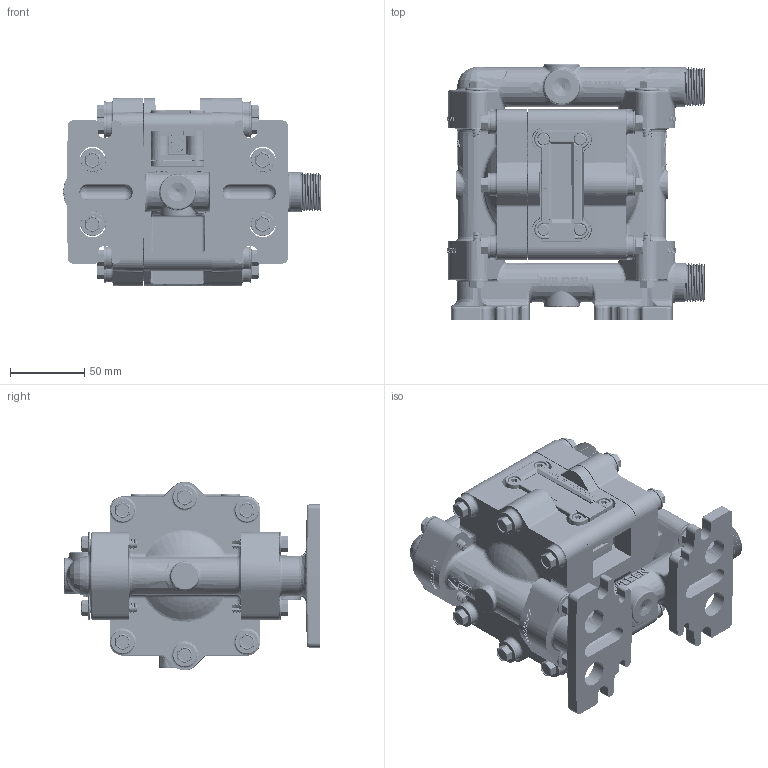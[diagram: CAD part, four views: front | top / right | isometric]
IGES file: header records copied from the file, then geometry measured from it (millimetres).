
Start section:  PTC IGES file: p25_advanced_plastic.igs
Global section: file name: p25_advanced_plastic.igs; native system: Pro/ENGINEER by Parametric Technology Corporation; preprocessor: 2008400; author: Nathan.Hale; organization: Unknown; date: 20091222.104009; units: inch
Bounding box: 173.74 x 172.47 x 127.32 mm (x, y, z)
Volume: 1054000.8 mm3; surface area: 301930 mm2
Topology: 11 solids, 13 shells, 7029 faces, 17385 edges, 10615 vertices
Faces by surface type: bspline 3696, revolution 3059, extrusion 274
